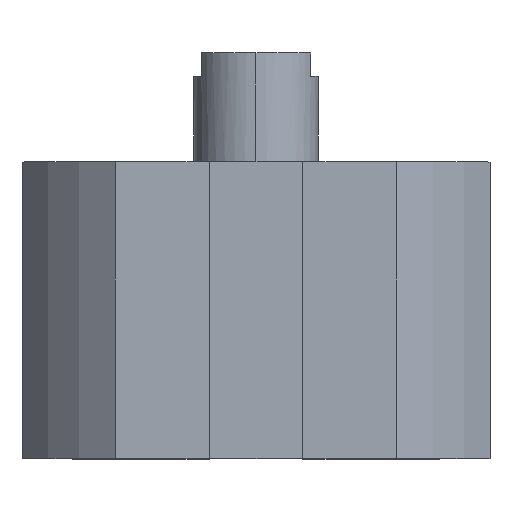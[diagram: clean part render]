
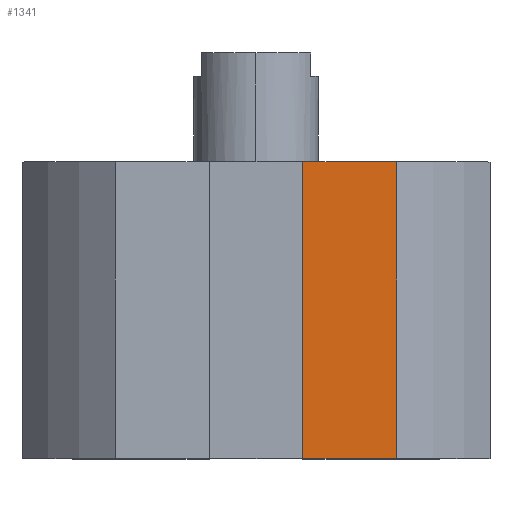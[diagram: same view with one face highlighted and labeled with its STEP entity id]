
A CAD part, top view. The second image highlights one B-rep face of the part: STEP entity #1341.
In plain terms, the highlighted planar face has unit normal (0, 0, 1).
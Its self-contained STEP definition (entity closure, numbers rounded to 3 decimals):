
#185 = VECTOR ( 'NONE', #646, 1000. ) ;
#363 = VERTEX_POINT ( 'NONE', #1921 ) ;
#381 = CARTESIAN_POINT ( 'NONE',  ( 6., 0., 30. ) ) ;
#494 = AXIS2_PLACEMENT_3D ( 'NONE', #1524, #506, #3258 ) ;
#506 = DIRECTION ( 'NONE',  ( 0., 0., 1. ) ) ;
#562 = ORIENTED_EDGE ( 'NONE', *, *, #3026, .F. ) ;
#620 = ORIENTED_EDGE ( 'NONE', *, *, #2355, .T. ) ;
#625 = ORIENTED_EDGE ( 'NONE', *, *, #2923, .T. ) ;
#633 = CARTESIAN_POINT ( 'NONE',  ( 6., -38., 30. ) ) ;
#646 = DIRECTION ( 'NONE',  ( 0., 1., 0. ) ) ;
#965 = VECTOR ( 'NONE', #1357, 1000. ) ;
#1047 = FACE_OUTER_BOUND ( 'NONE', #1655, .T. ) ;
#1123 = CARTESIAN_POINT ( 'NONE',  ( 18.028, -38., 30. ) ) ;
#1189 = LINE ( 'NONE', #1123, #1828 ) ;
#1341 = ADVANCED_FACE ( 'NONE', ( #1047 ), #1510, .T. ) ;
#1357 = DIRECTION ( 'NONE',  ( 1., 0., 0. ) ) ;
#1510 = PLANE ( 'NONE',  #494 ) ;
#1524 = CARTESIAN_POINT ( 'NONE',  ( 0., -38., 30. ) ) ;
#1574 = CARTESIAN_POINT ( 'NONE',  ( 18.028, -38., 30. ) ) ;
#1575 = VERTEX_POINT ( 'NONE', #2807 ) ;
#1617 = DIRECTION ( 'NONE',  ( 0., 1., 0. ) ) ;
#1655 = EDGE_LOOP ( 'NONE', ( #562, #1929, #620, #625 ) ) ;
#1716 = CARTESIAN_POINT ( 'NONE',  ( 0., 0., 30. ) ) ;
#1762 = VERTEX_POINT ( 'NONE', #381 ) ;
#1788 = LINE ( 'NONE', #1716, #1919 ) ;
#1828 = VECTOR ( 'NONE', #1617, 1000. ) ;
#1919 = VECTOR ( 'NONE', #1976, 1000. ) ;
#1921 = CARTESIAN_POINT ( 'NONE',  ( 6., -38., 30. ) ) ;
#1929 = ORIENTED_EDGE ( 'NONE', *, *, #2942, .F. ) ;
#1976 = DIRECTION ( 'NONE',  ( 1., 0., 0. ) ) ;
#2211 = VERTEX_POINT ( 'NONE', #1574 ) ;
#2225 = LINE ( 'NONE', #2388, #965 ) ;
#2355 = EDGE_CURVE ( 'NONE', #363, #2211, #2225, .T. ) ;
#2388 = CARTESIAN_POINT ( 'NONE',  ( 0., -38., 30. ) ) ;
#2461 = LINE ( 'NONE', #633, #185 ) ;
#2807 = CARTESIAN_POINT ( 'NONE',  ( 18.028, 0., 30. ) ) ;
#2923 = EDGE_CURVE ( 'NONE', #2211, #1575, #1189, .T. ) ;
#2942 = EDGE_CURVE ( 'NONE', #363, #1762, #2461, .T. ) ;
#3026 = EDGE_CURVE ( 'NONE', #1762, #1575, #1788, .T. ) ;
#3258 = DIRECTION ( 'NONE',  ( 1., 0., 0. ) ) ;
